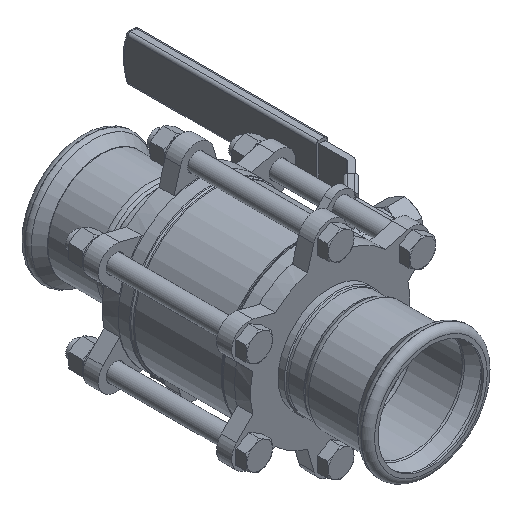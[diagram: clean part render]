
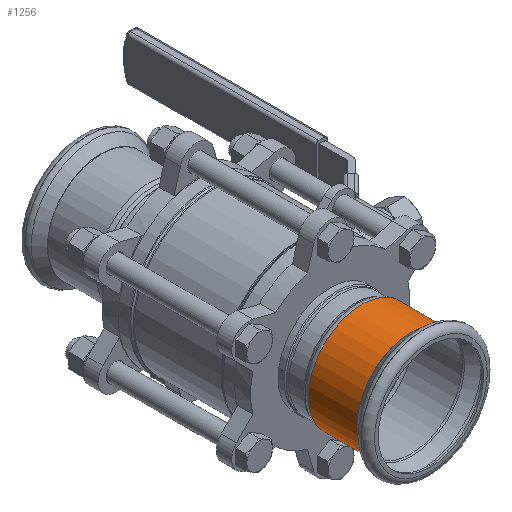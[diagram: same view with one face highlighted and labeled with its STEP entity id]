
A CAD part, isometric view. The second image highlights one B-rep face of the part: STEP entity #1256.
In plain terms, the highlighted cylindrical face has radius 56.4 mm (diameter 112.8 mm), a full revolution.
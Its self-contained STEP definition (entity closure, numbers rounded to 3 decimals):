
#1256=ADVANCED_FACE('',(#2471,#2472),#2473,.T.);
#2471=FACE_OUTER_BOUND('',#3978,.T.);
#2472=FACE_OUTER_BOUND('',#3979,.T.);
#2473=CYLINDRICAL_SURFACE('',#3980,56.4);
#3978=EDGE_LOOP('',(#6083));
#3979=EDGE_LOOP('',(#6084));
#3980=AXIS2_PLACEMENT_3D('',#6085,#6086,#6087);
#6083=ORIENTED_EDGE('',*,*,#9077,.F.);
#6084=ORIENTED_EDGE('',*,*,#9075,.T.);
#6085=CARTESIAN_POINT('',(0.0,0.0,0.0));
#6086=DIRECTION('',(0.,1.0,0.0));
#6087=DIRECTION('',(0.0,0.0,-1.0));
#9075=EDGE_CURVE('',#10539,#10539,#10540,.T.);
#9077=EDGE_CURVE('',#10542,#10542,#10543,.T.);
#10539=VERTEX_POINT('',#12693);
#10540=CIRCLE('',#12694,56.4);
#10542=VERTEX_POINT('',#12696);
#10543=CIRCLE('',#12697,56.4);
#12693=CARTESIAN_POINT('',(56.4,-111.599,0.));
#12694=AXIS2_PLACEMENT_3D('',#15709,#15710,#15711);
#12696=CARTESIAN_POINT('',(56.4,-163.008,0.));
#12697=AXIS2_PLACEMENT_3D('',#15712,#15713,#15714);
#15709=CARTESIAN_POINT('',(0.,-111.599,0.));
#15710=DIRECTION('',(0.,-1.0,-0.0));
#15711=DIRECTION('',(0.0,0.0,-1.0));
#15712=CARTESIAN_POINT('',(0.,-163.008,0.));
#15713=DIRECTION('',(0.,-1.0,-0.0));
#15714=DIRECTION('',(0.0,0.0,-1.0));
